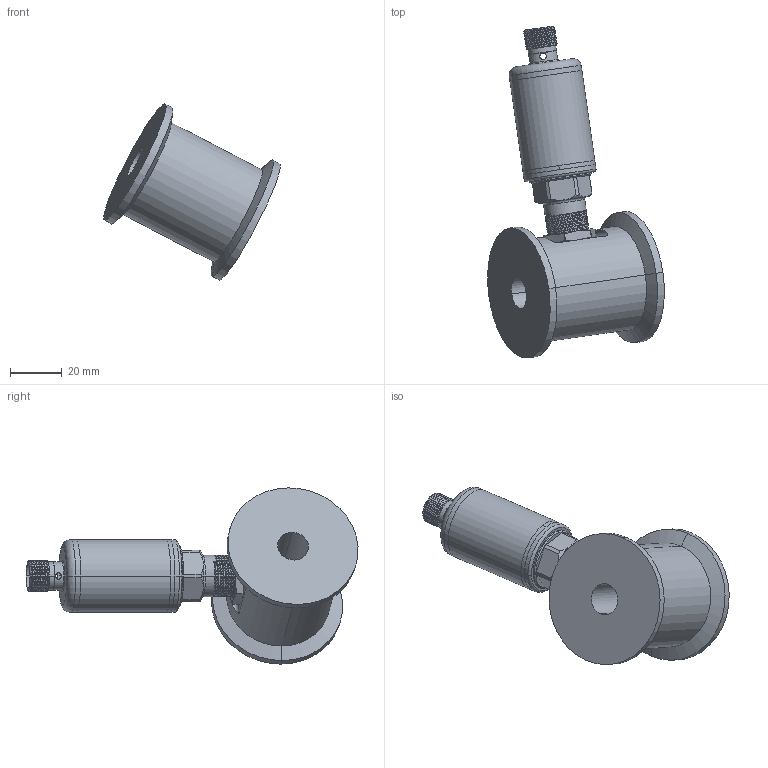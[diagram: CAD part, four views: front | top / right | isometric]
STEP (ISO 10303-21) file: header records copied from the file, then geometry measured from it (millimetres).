
FILE_DESCRIPTION (( 'STEP AP214' ), '1' );
FILE_NAME ('BFW1K12-J.STEP', '2025-11-05T01:27:15', ( '' ), ( '' ), 'SwSTEP 2.0', 'SolidWorks 2023', '' );
FILE_SCHEMA (( 'AUTOMOTIVE_DESIGN' ));
Length unit declared in the file: millimetre
Products named in the file (8): 探头; 壳体; 压力变送器; 连接管; DN4卡盘主体; M16螺母; BFW1K12-J; 垫片
Assembly tree (8 placements, depth 3):
  BFW1K12-J
    压力变送器
      壳体
      垫片
      连接管
      探头
    M16螺母  x2
    DN4卡盘主体
Bounding box: 68 x 127.78 x 67.82 mm (x, y, z)
Volume: 73671.4 mm3; surface area: 32083.1 mm2
Topology: 7 solids, 7 shells, 275 faces, 699 edges, 450 vertices
Faces by surface type: cylinder 136, cone 69, plane 54, torus 8, bspline 8
Entity records: 11610 total; most frequent: CARTESIAN_POINT 5932, ORIENTED_EDGE 1212, DIRECTION 1084, EDGE_CURVE 606, AXIS2_PLACEMENT_3D 435, VERTEX_POINT 389, EDGE_LOOP 273, FACE_OUTER_BOUND 241
